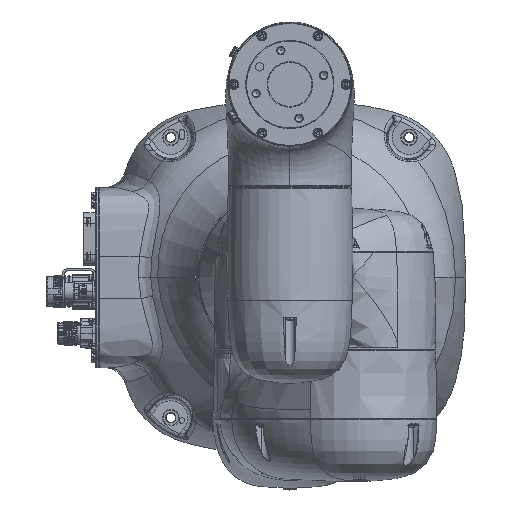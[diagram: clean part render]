
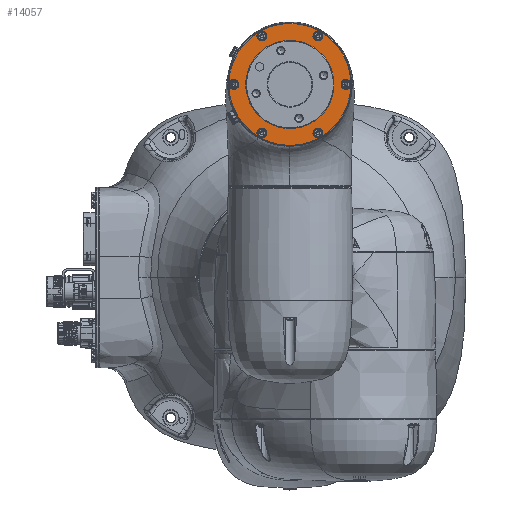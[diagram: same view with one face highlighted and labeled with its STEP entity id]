
A CAD part, top view. The second image highlights one B-rep face of the part: STEP entity #14057.
In plain terms, the highlighted planar face has unit normal (0, 0, 1).
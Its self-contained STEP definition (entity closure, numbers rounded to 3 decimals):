
#14057=ADVANCED_FACE('',(#18261,#18262),#16958,.T.);
#16958=PLANE('',#105000);
#18261=FACE_BOUND('',#24287,.T.);
#18262=FACE_BOUND('',#24288,.T.);
#24287=EDGE_LOOP('',(#69794));
#24288=EDGE_LOOP('',(#69795,#69796,#69797,#69798,#69799,#69800,#69801,#69802,
#69803,#69804,#69805,#69806));
#42728=CIRCLE('',#104987,31.5);
#42729=CIRCLE('',#104988,3.55);
#42730=CIRCLE('',#104989,43.5);
#42731=CIRCLE('',#104990,3.55);
#42732=CIRCLE('',#104991,43.5);
#42733=CIRCLE('',#104992,3.55);
#42734=CIRCLE('',#104993,43.5);
#42735=CIRCLE('',#104994,3.55);
#42736=CIRCLE('',#104995,43.5);
#42737=CIRCLE('',#104996,3.55);
#42738=CIRCLE('',#104997,43.5);
#42739=CIRCLE('',#104998,3.55);
#42740=CIRCLE('',#104999,43.5);
#69794=ORIENTED_EDGE('',*,*,#93632,.F.);
#69795=ORIENTED_EDGE('',*,*,#93633,.T.);
#69796=ORIENTED_EDGE('',*,*,#93634,.T.);
#69797=ORIENTED_EDGE('',*,*,#93635,.T.);
#69798=ORIENTED_EDGE('',*,*,#93636,.T.);
#69799=ORIENTED_EDGE('',*,*,#93637,.T.);
#69800=ORIENTED_EDGE('',*,*,#93638,.T.);
#69801=ORIENTED_EDGE('',*,*,#93639,.T.);
#69802=ORIENTED_EDGE('',*,*,#93640,.T.);
#69803=ORIENTED_EDGE('',*,*,#93641,.T.);
#69804=ORIENTED_EDGE('',*,*,#93642,.T.);
#69805=ORIENTED_EDGE('',*,*,#93643,.T.);
#69806=ORIENTED_EDGE('',*,*,#93644,.T.);
#79742=VERTEX_POINT('',#287788);
#79743=VERTEX_POINT('',#287790);
#79744=VERTEX_POINT('',#287791);
#79745=VERTEX_POINT('',#287793);
#79746=VERTEX_POINT('',#287795);
#79747=VERTEX_POINT('',#287797);
#79748=VERTEX_POINT('',#287799);
#79749=VERTEX_POINT('',#287801);
#79750=VERTEX_POINT('',#287803);
#79751=VERTEX_POINT('',#287805);
#79752=VERTEX_POINT('',#287807);
#79753=VERTEX_POINT('',#287809);
#79754=VERTEX_POINT('',#287811);
#93632=EDGE_CURVE('',#79742,#79742,#42728,.T.);
#93633=EDGE_CURVE('',#79743,#79744,#42729,.T.);
#93634=EDGE_CURVE('',#79744,#79745,#42730,.T.);
#93635=EDGE_CURVE('',#79745,#79746,#42731,.T.);
#93636=EDGE_CURVE('',#79746,#79747,#42732,.T.);
#93637=EDGE_CURVE('',#79747,#79748,#42733,.T.);
#93638=EDGE_CURVE('',#79748,#79749,#42734,.T.);
#93639=EDGE_CURVE('',#79749,#79750,#42735,.T.);
#93640=EDGE_CURVE('',#79750,#79751,#42736,.T.);
#93641=EDGE_CURVE('',#79751,#79752,#42737,.T.);
#93642=EDGE_CURVE('',#79752,#79753,#42738,.T.);
#93643=EDGE_CURVE('',#79753,#79754,#42739,.T.);
#93644=EDGE_CURVE('',#79754,#79743,#42740,.T.);
#104987=AXIS2_PLACEMENT_3D('',#287787,#127242,#127243);
#104988=AXIS2_PLACEMENT_3D('',#287789,#127244,#127245);
#104989=AXIS2_PLACEMENT_3D('',#287792,#127246,#127247);
#104990=AXIS2_PLACEMENT_3D('',#287794,#127248,#127249);
#104991=AXIS2_PLACEMENT_3D('',#287796,#127250,#127251);
#104992=AXIS2_PLACEMENT_3D('',#287798,#127252,#127253);
#104993=AXIS2_PLACEMENT_3D('',#287800,#127254,#127255);
#104994=AXIS2_PLACEMENT_3D('',#287802,#127256,#127257);
#104995=AXIS2_PLACEMENT_3D('',#287804,#127258,#127259);
#104996=AXIS2_PLACEMENT_3D('',#287806,#127260,#127261);
#104997=AXIS2_PLACEMENT_3D('',#287808,#127262,#127263);
#104998=AXIS2_PLACEMENT_3D('',#287810,#127264,#127265);
#104999=AXIS2_PLACEMENT_3D('',#287812,#127266,#127267);
#105000=AXIS2_PLACEMENT_3D('',#287813,#127268,#127269);
#127242=DIRECTION('',(0.,0.,1.));
#127243=DIRECTION('',(-0.707,-0.707,0.));
#127244=DIRECTION('',(0.,0.,-1.));
#127245=DIRECTION('',(-0.707,0.707,0.));
#127246=DIRECTION('',(0.,0.,1.));
#127247=DIRECTION('',(-0.707,0.707,0.));
#127248=DIRECTION('',(0.,0.,-1.));
#127249=DIRECTION('',(-0.707,0.707,0.));
#127250=DIRECTION('',(0.,0.,1.));
#127251=DIRECTION('',(-0.707,0.707,0.));
#127252=DIRECTION('',(0.,0.,-1.));
#127253=DIRECTION('',(-0.707,0.707,0.));
#127254=DIRECTION('',(0.,0.,1.));
#127255=DIRECTION('',(-0.707,0.707,0.));
#127256=DIRECTION('',(0.,0.,-1.));
#127257=DIRECTION('',(-0.707,0.707,0.));
#127258=DIRECTION('',(0.,0.,1.));
#127259=DIRECTION('',(-0.707,0.707,0.));
#127260=DIRECTION('',(0.,0.,-1.));
#127261=DIRECTION('',(-0.707,0.707,0.));
#127262=DIRECTION('',(0.,0.,1.));
#127263=DIRECTION('',(-0.707,0.707,0.));
#127264=DIRECTION('',(0.,0.,-1.));
#127265=DIRECTION('',(-0.707,0.707,0.));
#127266=DIRECTION('',(0.,0.,1.));
#127267=DIRECTION('',(-0.707,0.707,0.));
#127268=DIRECTION('',(0.,0.,1.));
#127269=DIRECTION('',(-0.707,0.707,0.));
#287787=CARTESIAN_POINT('',(0.,0.,-6.5));
#287788=CARTESIAN_POINT('',(-22.274,-22.274,-6.5));
#287789=CARTESIAN_POINT('',(40.,0.,-6.5));
#287790=CARTESIAN_POINT('',(43.496,-0.619,-6.5));
#287791=CARTESIAN_POINT('',(43.496,0.619,-6.5));
#287792=CARTESIAN_POINT('',(0.,0.,-6.5));
#287793=CARTESIAN_POINT('',(22.284,37.359,-6.5));
#287794=CARTESIAN_POINT('',(20.,34.641,-6.5));
#287795=CARTESIAN_POINT('',(21.212,37.978,-6.5));
#287796=CARTESIAN_POINT('',(0.,0.,-6.5));
#287797=CARTESIAN_POINT('',(-21.212,37.978,-6.5));
#287798=CARTESIAN_POINT('',(-20.,34.641,-6.5));
#287799=CARTESIAN_POINT('',(-22.284,37.359,-6.5));
#287800=CARTESIAN_POINT('',(0.,0.,-6.5));
#287801=CARTESIAN_POINT('',(-43.496,0.619,-6.5));
#287802=CARTESIAN_POINT('',(-40.,0.,-6.5));
#287803=CARTESIAN_POINT('',(-43.496,-0.619,-6.5));
#287804=CARTESIAN_POINT('',(0.,0.,-6.5));
#287805=CARTESIAN_POINT('',(-22.284,-37.359,-6.5));
#287806=CARTESIAN_POINT('',(-20.,-34.641,-6.5));
#287807=CARTESIAN_POINT('',(-21.212,-37.978,-6.5));
#287808=CARTESIAN_POINT('',(0.,0.,-6.5));
#287809=CARTESIAN_POINT('',(21.212,-37.978,-6.5));
#287810=CARTESIAN_POINT('',(20.,-34.641,-6.5));
#287811=CARTESIAN_POINT('',(22.284,-37.359,-6.5));
#287812=CARTESIAN_POINT('',(0.,0.,-6.5));
#287813=CARTESIAN_POINT('',(0.,0.,-6.5));
